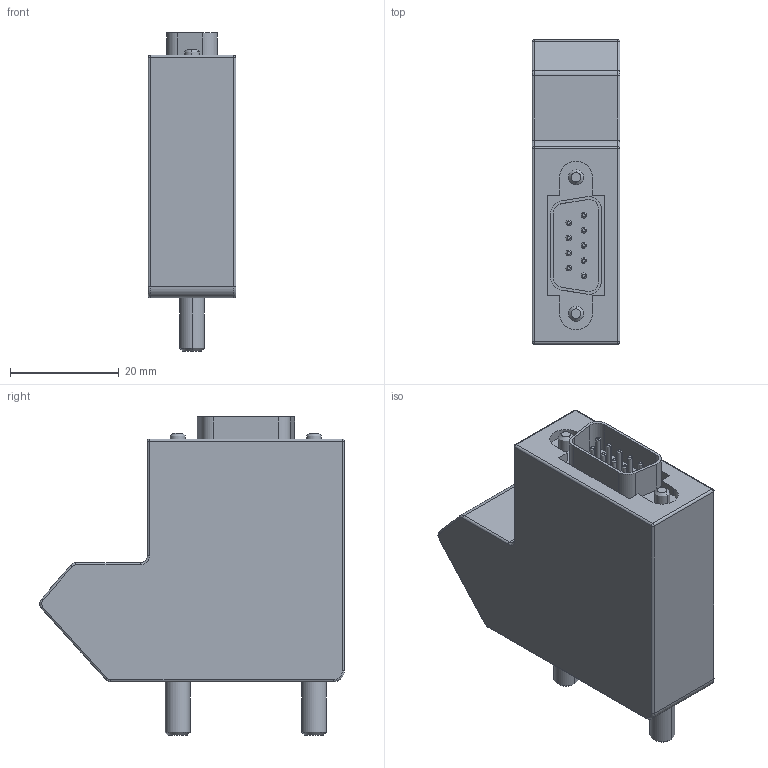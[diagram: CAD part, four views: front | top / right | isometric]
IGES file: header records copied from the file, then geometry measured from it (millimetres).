
Start section:  PTC IGES file: cu_conn_crio_db_9_tb.igs
Global section: file name: cu_conn_crio_db_9_tb.igs; native system: Pro/ENGINEER by Parametric Technology Corporation; preprocessor: 2006080; author: jpearson; organization: Unknown; date: 070806.170848; units: inch
Bounding box: 16.15 x 55.96 x 58.42 mm (x, y, z)
Surface area: 8209.6 mm2 (no closed solid volume)
Topology: 0 solids, 0 shells, 148 faces, 652 edges, 652 vertices
Faces by surface type: revolution 99, bspline 49
